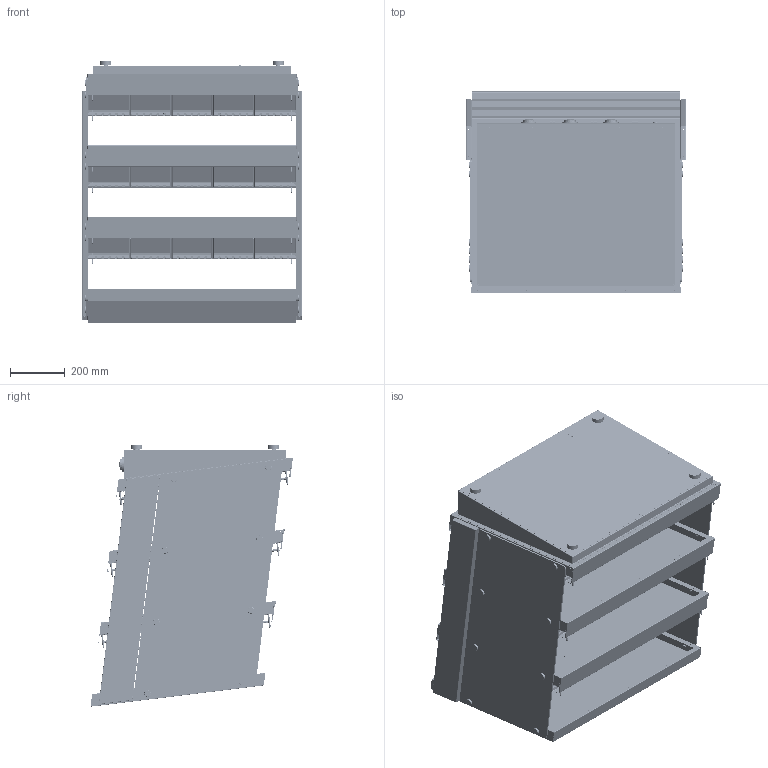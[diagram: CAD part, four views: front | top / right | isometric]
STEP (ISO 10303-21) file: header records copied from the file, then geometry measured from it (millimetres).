
FILE_DESCRIPTION (( 'STEP AP214' ), '1' );
FILE_NAME ('pres_CBIN803.STEP', '2024-12-23T10:39:56', ( '' ), ( '' ), 'SwSTEP 2.0', 'SolidWorks 2025', '' );
FILE_SCHEMA (( 'AUTOMOTIVE_DESIGN' ));
Length unit declared in the file: millimetre
Products named in the file (1): pres_CBIN803
Bounding box: 800.2 x 738.95 x 952.42 mm (x, y, z)
Volume: 9713636.6 mm3; surface area: 14667885.3 mm2
Topology: 158 solids, 158 shells, 10411 faces, 26563 edges, 16479 vertices
Faces by surface type: plane 4584, cylinder 4112, bspline 793, torus 496, sphere 331, cone 95
Entity records: 536950 total; most frequent: CARTESIAN_POINT 285409, ORIENTED_EDGE 53028, DIRECTION 49382, EDGE_CURVE 26514, AXIS2_PLACEMENT_3D 18436, VERTEX_POINT 16455, VECTOR 12510, LINE 12510
